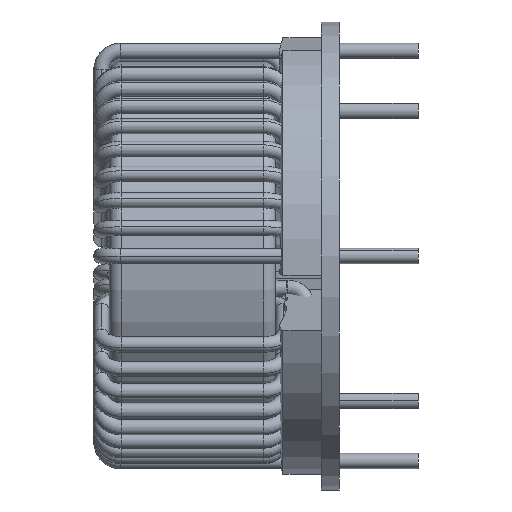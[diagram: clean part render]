
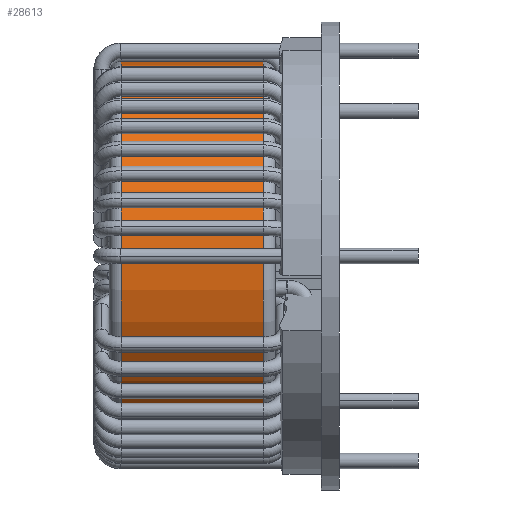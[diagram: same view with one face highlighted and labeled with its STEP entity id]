
A CAD part, left-side view. The second image highlights one B-rep face of the part: STEP entity #28613.
In plain terms, the highlighted cylindrical face has radius 32.23 mm (diameter 64.46 mm), a partial arc.
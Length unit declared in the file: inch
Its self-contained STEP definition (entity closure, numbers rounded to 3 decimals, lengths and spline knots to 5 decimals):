
#955 = DIRECTION ( 'NONE',  ( 0., 0., -1. ) ) ;
#1501 = ORIENTED_EDGE ( 'NONE', *, *, #26067, .T. ) ;
#2727 = DIRECTION ( 'NONE',  ( 0., 0., 1. ) ) ;
#2961 = VERTEX_POINT ( 'NONE', #21189 ) ;
#5743 = FACE_OUTER_BOUND ( 'NONE', #32669, .T. ) ;
#7383 = EDGE_CURVE ( 'NONE', #15168, #2961, #20339, .T. ) ;
#9128 = LINE ( 'NONE', #16519, #32186 ) ;
#9661 = CARTESIAN_POINT ( 'NONE',  ( 0., 1.4252, -1.2689 ) ) ;
#9860 = CARTESIAN_POINT ( 'NONE',  ( 0., 0.49685, -1.2689 ) ) ;
#10461 = ORIENTED_EDGE ( 'NONE', *, *, #10611, .F. ) ;
#10611 = EDGE_CURVE ( 'NONE', #25277, #2961, #9128, .T. ) ;
#11955 = DIRECTION ( 'NONE',  ( 0., 1., 0. ) ) ;
#11992 = CIRCLE ( 'NONE', #13813, 1.2689 ) ;
#13408 = CARTESIAN_POINT ( 'NONE',  ( 0., 1.4252, 1.2689 ) ) ;
#13813 = AXIS2_PLACEMENT_3D ( 'NONE', #22833, #19037, #2727 ) ;
#15168 = VERTEX_POINT ( 'NONE', #9860 ) ;
#16253 = DIRECTION ( 'NONE',  ( 0., -1., 0. ) ) ;
#16519 = CARTESIAN_POINT ( 'NONE',  ( 0., 1.50394, 1.2689 ) ) ;
#16905 = CARTESIAN_POINT ( 'NONE',  ( 0., 1.50394, -1.2689 ) ) ;
#17651 = VECTOR ( 'NONE', #31914, 39.37008 ) ;
#18048 = VERTEX_POINT ( 'NONE', #9661 ) ;
#18494 = AXIS2_PLACEMENT_3D ( 'NONE', #30669, #16253, #955 ) ;
#19037 = DIRECTION ( 'NONE',  ( 0., -1., 0. ) ) ;
#19491 = ORIENTED_EDGE ( 'NONE', *, *, #7383, .T. ) ;
#20339 = CIRCLE ( 'NONE', #28713, 1.2689 ) ;
#21189 = CARTESIAN_POINT ( 'NONE',  ( 0., 0.49685, 1.2689 ) ) ;
#21471 = CARTESIAN_POINT ( 'NONE',  ( 0., 0.49685, 0. ) ) ;
#22833 = CARTESIAN_POINT ( 'NONE',  ( 0., 1.4252, 0. ) ) ;
#23188 = ORIENTED_EDGE ( 'NONE', *, *, #31715, .T. ) ;
#23841 = LINE ( 'NONE', #16905, #17651 ) ;
#25277 = VERTEX_POINT ( 'NONE', #13408 ) ;
#26067 = EDGE_CURVE ( 'NONE', #25277, #18048, #11992, .T. ) ;
#26146 = DIRECTION ( 'NONE',  ( 0., -1., 0. ) ) ;
#28613 = ADVANCED_FACE ( 'NONE', ( #5743 ), #29615, .T. ) ;
#28713 = AXIS2_PLACEMENT_3D ( 'NONE', #21471, #11955, #30553 ) ;
#29615 = CYLINDRICAL_SURFACE ( 'NONE', #18494, 1.2689 ) ;
#30553 = DIRECTION ( 'NONE',  ( 0., 0., 1. ) ) ;
#30669 = CARTESIAN_POINT ( 'NONE',  ( 0., 1.50394, 0. ) ) ;
#31715 = EDGE_CURVE ( 'NONE', #18048, #15168, #23841, .T. ) ;
#31914 = DIRECTION ( 'NONE',  ( 0., -1., 0. ) ) ;
#32186 = VECTOR ( 'NONE', #26146, 39.37008 ) ;
#32669 = EDGE_LOOP ( 'NONE', ( #10461, #1501, #23188, #19491 ) ) ;
